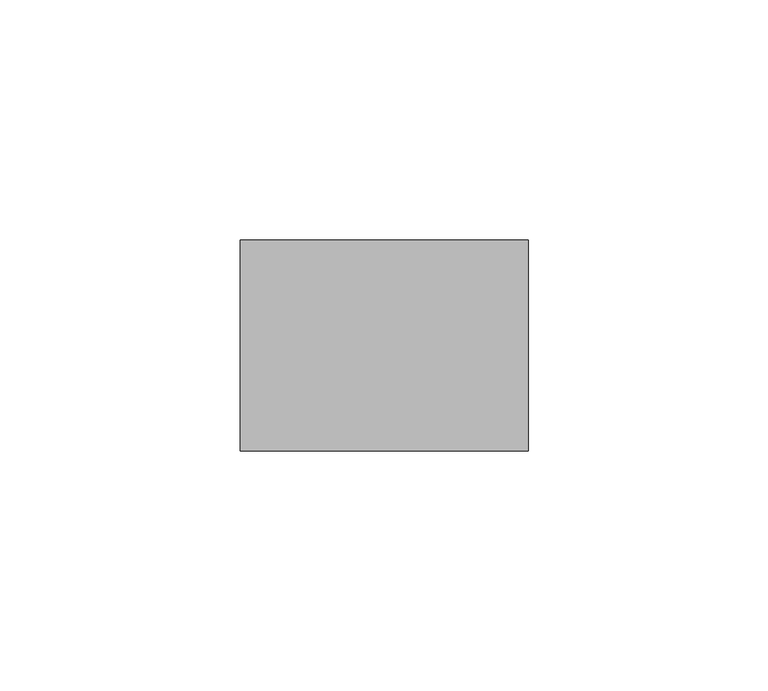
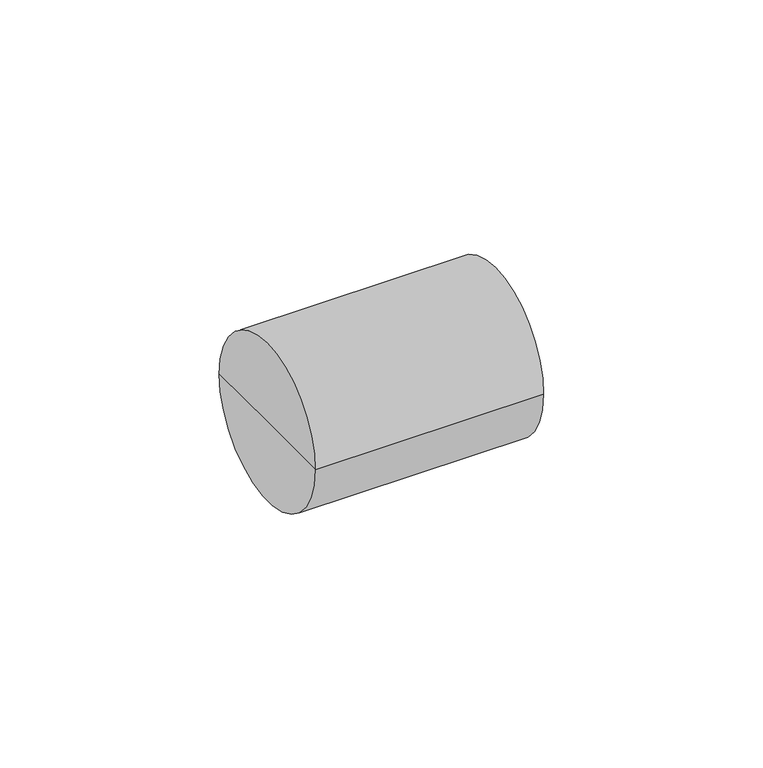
"""IFC4 building model written with IfcOpenShell, lengths in millimetres: cable carrier fitting geometry, Муфта для гофрированных труб, прозрачная GFLEX D ИЭК : CTA10D-GFLEX40-K08-020."""

from ifc_helpers import new_model, si_unit, frame, origin, place, context, project, spatial, circle_curve, source, transform, mapped, element, save
from ifc_brep_helpers import plane_surface, cylinder_surface, advanced_brep


def cable_carrier_fitting_802f24f7(model_context):
    return source(origin(), model_context, "Body", "AdvancedBrep", [
        advanced_brep(
        [(-30.0, -22.0, 0.0), (-30.0, 22.0, 0.0), (30.0, 22.0, 0.0), (30.0, -22.0, 0.0), (-30.0, 0.0, 0.0), (30.0, 0.0, 0.0)],
        [
            (0, 1, circle_curve(frame((-30.0, 0.0, 0.0), z_axis=(1.0, 0.0, 0.0), x_axis=(0.0, 1.0, 0.0)), 22.0)),
            (1, 2),
            (2, 3, circle_curve(frame((30.0, 0.0, 0.0), z_axis=(-1.0, 0.0, 0.0), x_axis=(0.0, 1.0, 0.0)), 22.0)),
            (3, 0),
            (1, 0, circle_curve(frame((-30.0, 0.0, 0.0), z_axis=(1.0, 0.0, 0.0), x_axis=(0.0, 1.0, 0.0)), 22.0)),
            (3, 2, circle_curve(frame((30.0, 0.0, 0.0), z_axis=(-1.0, 0.0, 0.0), x_axis=(0.0, 1.0, 0.0)), 22.0)),
            (4, 1),
            (0, 4),
            (2, 5),
            (5, 3),
        ],
        [
            cylinder_surface(frame((1955.0, 0.0, 0.0), z_axis=(-1.0, 0.0, 0.0), x_axis=(0.0, 1.0, 0.0)), 22.0),
            plane_surface(frame((-30.0, 0.0, 0.0), z_axis=(-1.0, 0.0, 0.0), x_axis=(0.0, 1.0, 0.0))),
            plane_surface(frame((30.0, 0.0, 0.0), z_axis=(1.0, 0.0, 0.0), x_axis=(0.0, 1.0, 0.0))),
        ],
        [
            (0, [[1, 2, 3, 4]]),
            (0, [[5, -4, 6, -2]]),
            (1, [[7, -1, 8]]),
            (1, [[-8, -5, -7]]),
            (2, [[-3, 9, 10]]),
            (2, [[-6, -10, -9]]),
        ],
    ),
    ])


if __name__ == "__main__":
    model = new_model("IFC4")
    model_context = context("Model", 3, world=origin())
    ifc_project = project(units=[si_unit("LENGTHUNIT", "METRE", prefix="MILLI")], contexts=[model_context])
    site = spatial("IfcSite", under=ifc_project)
    building = spatial("IfcBuilding", under=site)
    placement = place(None, origin())
    cable_carrier_fitting_shape = cable_carrier_fitting_802f24f7(model_context)
    element("IfcCableCarrierFitting", 1, ObjectType="Муфта для гофрированных труб, прозрачная GFLEX D ИЭК : CTA10D-GFLEX40-K08-020", at=placement, inside=building, context=model_context, shape_type="MappedRepresentation", body=[
        mapped(cable_carrier_fitting_shape, transform((0.0, 0.0, 0.0), x_axis=(1.0, 0.0, 0.0), y_axis=(0.0, 1.0, 0.0), z_axis=(0.0, 0.0, 1.0))),
    ])
    save(model, "model.ifc")
